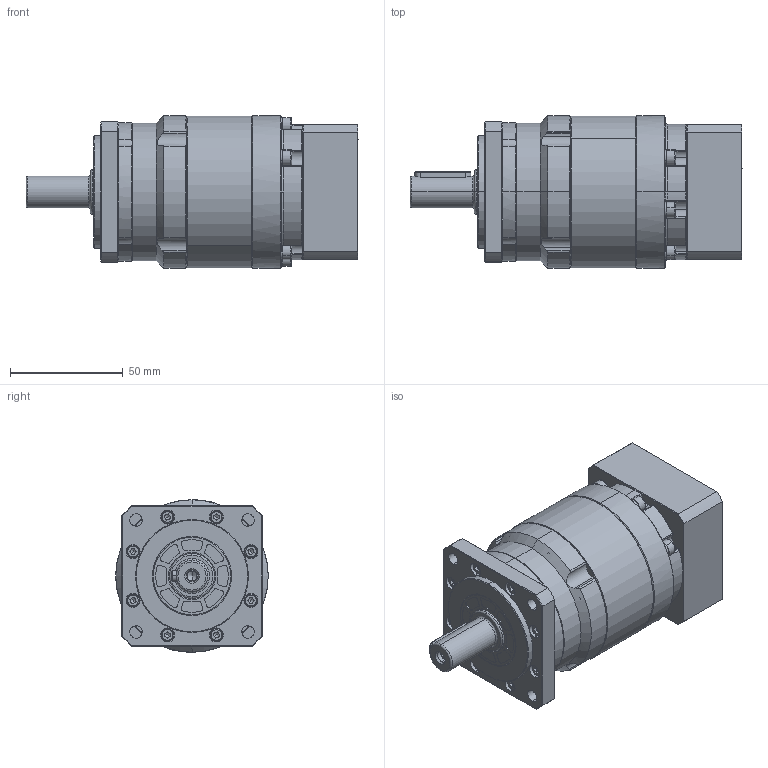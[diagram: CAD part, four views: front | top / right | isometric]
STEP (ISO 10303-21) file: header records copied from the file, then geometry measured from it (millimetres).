
FILE_DESCRIPTION (( 'STEP AP214' ), '1' );
FILE_NAME ('FB060-L2-S2-P2 14-50-70-M4.STEP', '2024-01-13T02:03:28', ( '微软用户' ), ( '微软中国' ), 'SwSTEP 2.0', 'SolidWorks 2018', '' );
FILE_SCHEMA (( 'AUTOMOTIVE_DESIGN' ));
Length unit declared in the file: millimetre
Products named in the file (17): 输入太阳轮FB060D14外形图; hexagon socket head cap screws gb_GB_FASTENER_SCREWS_HSHCS M3X16-N; spring lock washers--normal type gb_GB_FASTENER_WASHER_SW 3; plain parallel keys_GB_CONNECTING_PIECE_KEYS_CSK 5X25; FB060笢潔楊擘俋倛芞; 一级输出轴FB060外形图; FB060方输出端盖外形图; spring lock washers--normal type gb_GB_FASTENER_WASHER_SW 4; hexagon socket head cap screws gb_GB_FASTENER_SCREWS_HSHCS M5X16-N; 蚐猾20X35X5; FB060一级齿圈外形图; hex socket set screws with flat point gb_GB_FASTENER_SCREWS_HSFP M10X8-N; FB060二级齿圈外形图; hexagon socket head cap screws gb_GB_FASTENER_SCREWS_HSHCS M4X20-N; FB060-L2-S2-P2 14-50-70-M4; 標杶FB060D17; 萇儂楊擘FB060-D50-M5-70F60H24.5
Assembly tree (52 placements, depth 2):
  FB060-L2-S2-P2 14-50-70-M4
    FB060一级齿圈外形图
    一级输出轴FB060外形图
    输入太阳轮FB060D14外形图
    FB060笢潔楊擘俋倛芞
    萇儂楊擘FB060-D50-M5-70F60H24.5
    標杶FB060D17
    hexagon socket head cap screws gb_GB_FASTENER_SCREWS_HSHCS M5X16-N
    hexagon socket head cap screws gb_GB_FASTENER_SCREWS_HSHCS M4X20-N  x12
    spring lock washers--normal type gb_GB_FASTENER_WASHER_SW 4  x12
    hex socket set screws with flat point gb_GB_FASTENER_SCREWS_HSFP M10X8-N
    FB060方输出端盖外形图
    蚐猾20X35X5
    plain parallel keys_GB_CONNECTING_PIECE_KEYS_CSK 5X25
    hexagon socket head cap screws gb_GB_FASTENER_SCREWS_HSHCS M3X16-N  x8
    spring lock washers--normal type gb_GB_FASTENER_WASHER_SW 3  x8
    FB060二级齿圈外形图
Bounding box: 147 x 67.5 x 67.5 mm (x, y, z)
Volume: 344795.3 mm3; surface area: 95175.2 mm2
Topology: 52 solids, 52 shells, 1504 faces, 3676 edges, 2283 vertices
Faces by surface type: plane 578, cylinder 566, cone 269, torus 79, bspline 12
Entity records: 37759 total; most frequent: CARTESIAN_POINT 5975, DIRECTION 4841, ORIENTED_EDGE 4312, EDGE_CURVE 2156, AXIS2_PLACEMENT_3D 1986, VERTEX_POINT 1379, CIRCLE 1069, EDGE_LOOP 1011
